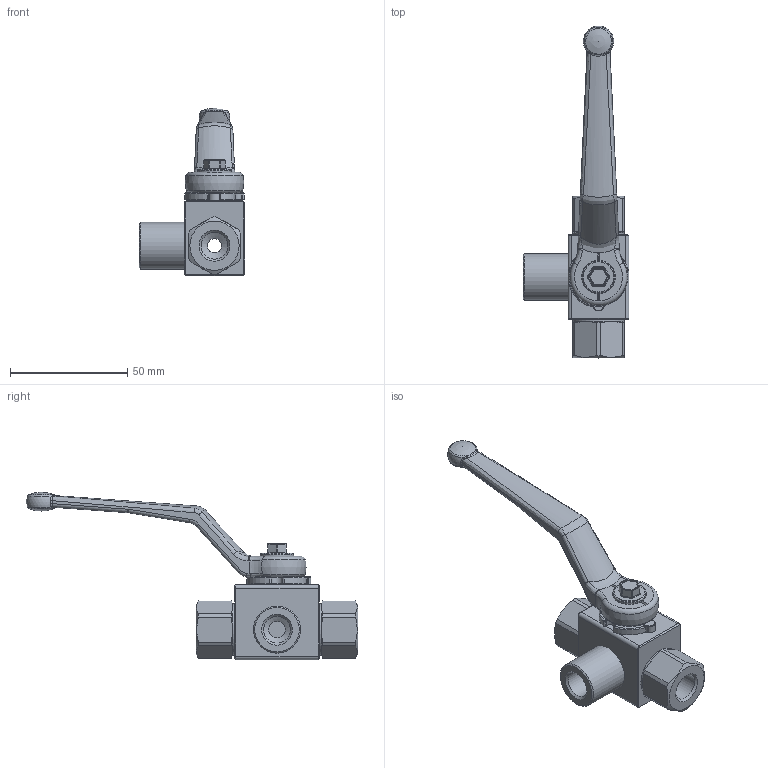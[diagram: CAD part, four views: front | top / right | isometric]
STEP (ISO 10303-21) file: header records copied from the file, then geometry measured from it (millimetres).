
FILE_DESCRIPTION( ( 'Unknown' ), '1' );
FILE_NAME( 'H:/PISTER/3D-MODELLE/BK3 stp/BK3 DN6 G1_4.stp', 'Unknown', ( 'Unknown' ), ( 'Unknown' ), 'PSStep 14.0', 'Unknown', ' ' );
FILE_SCHEMA( ( 'AUTOMOTIVE_DESIGN { 1 0 10303 214 1 1 1 1 }' ) );
Length unit declared in the file: millimetre
Products named in the file (10): Assem1; 03-008-002-oa3; 04-006-078-oa4; 06-008-059-oa9; 09-09-002; 58-28740-07-oa10; Griff_SW9; 58-0933-133; 01-008-017-oa11; 04-006-036-oa12
Assembly tree (9 placements, depth 2):
  Assem1
    03-008-002-oa3
    04-006-078-oa4
    06-008-059-oa9
    09-09-002
    58-28740-07-oa10
    Griff_SW9
    58-0933-133
    01-008-017-oa11
    04-006-036-oa12
Bounding box: 45.2 x 141.5 x 71.4 mm (x, y, z)
Volume: 33849.1 mm3; surface area: 24228.1 mm2
Topology: 9 solids, 9 shells, 382 faces, 949 edges, 572 vertices
Faces by surface type: cylinder 132, plane 122, bspline 42, torus 37, cone 29, sphere 20
Full cylindrical faces by diameter (mm): 4.134 x1, 4.98 x1, 5 x1, 6 x1, 7 x1, 11.445 x3, 11.6 x2, 14 x2, 14.3 x1, 20 x2, 21 x3, 22 x2, 22.5 x2
Entity records: 15692 total; most frequent: CARTESIAN_POINT 3994, DIRECTION 1821, ORIENTED_EDGE 1698, EDGE_CURVE 849, AXIS2_PLACEMENT_3D 740, VERTEX_POINT 542, EDGE_LOOP 456, FACE_OUTER_BOUND 413
